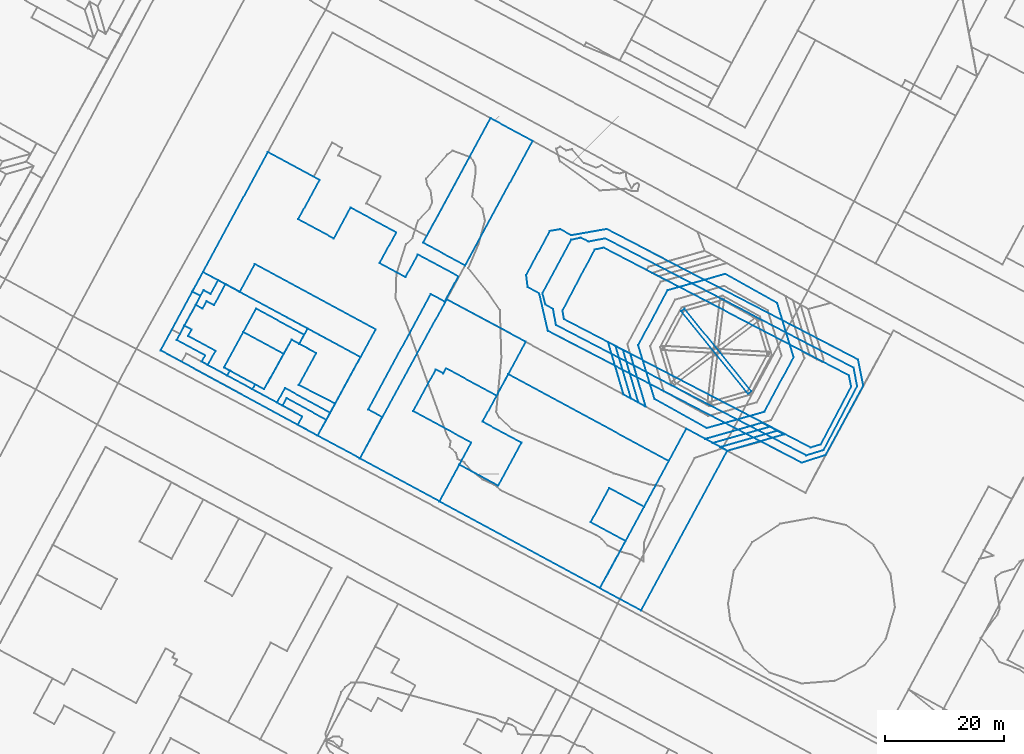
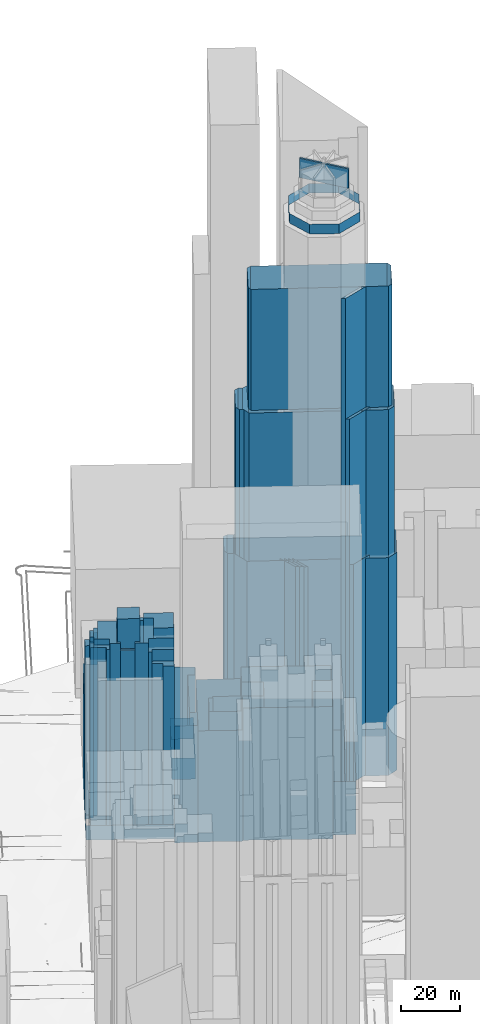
# Not in any storey, part 25 of 80: 28 walls.
"""IFC4 building model written with IfcOpenShell, lengths in metres."""

from ifc_helpers import new_model, si_unit, frame, origin_with_axes, place, context, subcontext, project, spatial, polygons, element, save


model = new_model("IFC4")

# Units and contexts
model_context = context("Model", 3, precision=1e-05, world=origin_with_axes())
body_context = subcontext(model_context, "Body", "Model", "MODEL_VIEW")
ifc_project = project(units=[si_unit("AREAUNIT", "SQUARE_METRE"), si_unit("LENGTHUNIT", "METRE")], contexts=[model_context])

# Sites, building
site_1_placement = place(None, origin_with_axes())
site_1 = spatial("IfcSite", under=ifc_project, at=site_1_placement, Name="Topoexport Site")
site_2_placement = place(site_1_placement, origin_with_axes())
site_2 = spatial("IfcSite", under=site_1, at=site_2_placement, Name="TPX_BATIMENTS")
building_1_placement = place(site_2_placement, frame((159.9721915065, 264.969762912, 19.7613864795), z_axis=(0.0, 0.0, 1.0), x_axis=(1.0, 0.0, 0.0)))
building_1 = spatial("IfcBuilding", under=site_2, at=building_1_placement, Name="Batiment 73", CompositionType="ELEMENT")

# Wall
wall_1_placement = place(None, frame((159.9721915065, 264.969762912, 19.7613864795), z_axis=(0.0, 0.0, 1.0), x_axis=(1.0, 0.0, 0.0)))
element("IfcWall", 1, at=wall_1_placement, inside=building_1, Name="Mur 0", context=body_context, shape_type="Tessellation", body=[
    polygons([(0.0, 0.0, 0.0), (26.8862979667, -14.5533802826, 0.0), (31.1586807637, -6.6544117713, 0.0), (25.3312162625, -3.502510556, 0.0), (28.4385534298, 2.2290739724, 0.0), (34.2660149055, -0.9228247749, 0.0), (38.4143590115, 6.7526611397, 0.0), (11.5365531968, 21.3060973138, 0.0), (7.2227399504, 13.3400447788, 0.0), (13.7552421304, 9.807746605, 0.0), (9.8628457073, 2.6237495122, 0.0), (3.3387795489, 6.1561492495, 0.0), (0.0, 0.0, 54.7000007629), (26.8862979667, -14.5533802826, 54.7000007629), (31.1586807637, -6.6544117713, 54.7000007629), (25.3312162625, -3.502510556, 54.7000007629), (28.4385534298, 2.2290739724, 54.7000007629), (34.2660149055, -0.9228247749, 54.7000007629), (38.4143590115, 6.7526611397, 54.7000007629), (11.5365531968, 21.3060973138, 54.7000007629), (7.2227399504, 13.3400447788, 54.7000007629), (13.7552421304, 9.807746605, 54.7000007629), (9.8628457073, 2.6237495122, 54.7000007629), (3.3387795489, 6.1561492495, 54.7000007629)], [[[14, 13, 2]], [[2, 13, 1]], [[15, 14, 3]], [[3, 14, 2]], [[16, 15, 4]], [[4, 15, 3]], [[17, 16, 5]], [[5, 16, 4]], [[18, 17, 6]], [[6, 17, 5]], [[19, 18, 7]], [[7, 18, 6]], [[20, 19, 8]], [[8, 19, 7]], [[21, 20, 9]], [[9, 20, 8]], [[22, 21, 10]], [[10, 21, 9]], [[23, 22, 11]], [[11, 22, 10]], [[13, 24, 1]], [[1, 24, 12]], [[24, 23, 12]], [[12, 23, 11]]]),
])

# Building
building_2_placement = place(site_2_placement, frame((133.701994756, 280.9958944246, 22.2284312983), z_axis=(0.0, 0.0, 1.0), x_axis=(1.0, 0.0, 0.0)))
building_2 = spatial("IfcBuilding", under=site_2, at=building_2_placement, Name="Batiment 80", CompositionType="ELEMENT")

# Wall
wall_2_placement = place(None, frame((133.701994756, 280.9958944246, 22.2284312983), z_axis=(0.0, 0.0, 1.0), x_axis=(1.0, 0.0, 0.0)))
element("IfcWall", 2, at=wall_2_placement, inside=building_2, Name="Mur 0", context=body_context, shape_type="Tessellation", body=[
    polygons([(0.0, 0.0, 0.0), (3.3046733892, -1.8045757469, 0.0), (2.5274119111, -3.2013890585, 0.0), (5.8745466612, -5.0276748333, 0.0), (7.3210219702, -2.3796322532, 0.0), (0.686095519, 1.2514244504, 0.0), (0.0, 0.0, 70.0), (3.3046733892, -1.8045757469, 70.0), (2.5274119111, -3.2013890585, 70.0), (5.8745466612, -5.0276748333, 70.0), (7.3210219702, -2.3796322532, 70.0), (0.686095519, 1.2514244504, 70.0)], [[[8, 7, 2]], [[2, 7, 1]], [[9, 8, 3]], [[3, 8, 2]], [[10, 9, 4]], [[4, 9, 3]], [[11, 10, 5]], [[5, 10, 4]], [[7, 12, 1]], [[1, 12, 6]], [[12, 11, 6]], [[6, 11, 5]]]),
])

# Building
building_3_placement = place(site_2_placement, frame((132.7675039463, 281.5068423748, 22.0591971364), z_axis=(0.0, 0.0, 1.0), x_axis=(1.0, 0.0, 0.0)))
building_3 = spatial("IfcBuilding", under=site_2, at=building_3_placement, Name="Batiment 81", CompositionType="ELEMENT")

# Wall
wall_3_placement = place(None, frame((132.7675039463, 281.5068423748, 22.0591971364), z_axis=(0.0, 0.0, 1.0), x_axis=(1.0, 0.0, 0.0)))
element("IfcWall", 3, at=wall_3_placement, inside=building_3, Name="Mur 0", context=body_context, shape_type="Tessellation", body=[
    polygons([(0.0, 0.0, 0.0), (0.9344908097, -0.5109479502, 0.0), (1.6205863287, 0.7404765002, 0.0), (8.2555127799, -2.8905802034, 0.0), (8.9001799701, -1.7062499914, 0.0), (1.3392038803, 2.43585198, 0.0), (0.0, 0.0, 75.0), (0.9344908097, -0.5109479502, 75.0), (1.6205863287, 0.7404765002, 75.0), (8.2555127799, -2.8905802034, 75.0), (8.9001799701, -1.7062499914, 75.0), (1.3392038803, 2.43585198, 75.0)], [[[8, 7, 2]], [[2, 7, 1]], [[9, 8, 3]], [[3, 8, 2]], [[10, 9, 4]], [[4, 9, 3]], [[11, 10, 5]], [[5, 10, 4]], [[7, 12, 1]], [[1, 12, 6]], [[12, 11, 6]], [[6, 11, 5]]]),
])

# Building
building_4_placement = place(site_2_placement, frame((136.4219742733, 284.4691979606, 20.8510870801), z_axis=(0.0, 0.0, 1.0), x_axis=(1.0, 0.0, 0.0)))
building_4 = spatial("IfcBuilding", under=site_2, at=building_4_placement, Name="Batiment 82", CompositionType="ELEMENT")

# Wall
wall_4_placement = place(None, frame((136.4219742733, 284.4691979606, 20.8510870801), z_axis=(0.0, 0.0, 1.0), x_axis=(1.0, 0.0, 0.0)))
element("IfcWall", 4, at=wall_4_placement, inside=building_4, Name="Mur 0", context=body_context, shape_type="Tessellation", body=[
    polygons([(0.0, 0.0, 0.0), (6.088815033, -3.1266972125, 0.0), (10.3290123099, 4.6386442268, 0.0), (1.4688163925, 9.4428815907, 0.0), (0.063512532, 6.8841359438, 0.0), (2.9178819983, 5.3296808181, 0.0), (0.0, 0.0, 83.0), (6.088815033, -3.1266972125, 83.0), (10.3290123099, 4.6386442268, 83.0), (1.4688163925, 9.4428815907, 83.0), (0.063512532, 6.8841359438, 83.0), (2.9178819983, 5.3296808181, 83.0)], [[[8, 7, 2]], [[2, 7, 1]], [[9, 8, 3]], [[3, 8, 2]], [[10, 9, 4]], [[4, 9, 3]], [[11, 10, 5]], [[5, 10, 4]], [[7, 12, 1]], [[1, 12, 6]], [[12, 11, 6]], [[6, 11, 5]]]),
])

# Building
building_5_placement = place(site_2_placement, frame((128.6389686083, 283.7459380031, 21.7688219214), z_axis=(0.0, 0.0, 1.0), x_axis=(1.0, 0.0, 0.0)))
building_5 = spatial("IfcBuilding", under=site_2, at=building_5_placement, Name="Batiment 83", CompositionType="ELEMENT")

# Wall
wall_5_placement = place(None, frame((128.6389686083, 283.7459380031, 21.7688219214), z_axis=(0.0, 0.0, 1.0), x_axis=(1.0, 0.0, 0.0)))
element("IfcWall", 5, at=wall_5_placement, inside=building_5, Name="Mur 0", context=body_context, shape_type="Tessellation", body=[
    polygons([(0.0, 0.0, 0.0), (4.128535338, -2.2390956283, 0.0), (5.4677392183, 0.1967563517, 0.0), (13.0287153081, -3.9453456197, 0.0), (13.8718206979, -2.403437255, 0.0), (7.7830056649, 0.7232599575, 0.0), (10.7008876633, 6.0529407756, 0.0), (6.5976755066, 8.2923269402, 0.0), (1.9668380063, 0.0006475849, 0.0), (0.4547989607, 0.8157486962, 0.0), (0.0, 0.0, 79.0), (4.128535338, -2.2390956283, 79.0), (5.4677392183, 0.1967563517, 79.0), (13.0287153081, -3.9453456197, 79.0), (13.8718206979, -2.403437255, 79.0), (7.7830056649, 0.7232599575, 79.0), (10.7008876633, 6.0529407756, 79.0), (6.5976755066, 8.2923269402, 79.0), (1.9668380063, 0.0006475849, 79.0), (0.4547989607, 0.8157486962, 79.0)], [[[12, 11, 2]], [[2, 11, 1]], [[13, 12, 3]], [[3, 12, 2]], [[14, 13, 4]], [[4, 13, 3]], [[15, 14, 5]], [[5, 14, 4]], [[16, 15, 6]], [[6, 15, 5]], [[17, 16, 7]], [[7, 16, 6]], [[18, 17, 8]], [[8, 17, 7]], [[19, 18, 9]], [[9, 18, 8]], [[11, 20, 1]], [[1, 20, 10]], [[20, 19, 10]], [[10, 19, 9]]]),
])

# Building
building_6_placement = place(site_2_placement, frame((127.1263243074, 293.3318134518, 21.914507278), z_axis=(0.0, 0.0, 1.0), x_axis=(1.0, 0.0, 0.0)))
building_6 = spatial("IfcBuilding", under=site_2, at=building_6_placement, Name="Batiment 84", CompositionType="ELEMENT")

# Wall
wall_6_placement = place(None, frame((127.1263243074, 293.3318134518, 21.914507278), z_axis=(0.0, 0.0, 1.0), x_axis=(1.0, 0.0, 0.0)))
element("IfcWall", 6, at=wall_6_placement, inside=building_6, Name="Mur 0", context=body_context, shape_type="Tessellation", body=[
    polygons([(0.0, 0.0, 0.0), (6.7281427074, -3.6632865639, 0.0), (8.1103198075, -1.2935485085, 0.0), (9.3591624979, -1.9784795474, 0.0), (10.1940852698, -0.4588713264, 0.0), (2.1408822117, 3.9106630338, 0.0), (0.0, 0.0, 81.0), (6.7281427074, -3.6632865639, 81.0), (8.1103198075, -1.2935485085, 81.0), (9.3591624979, -1.9784795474, 81.0), (10.1940852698, -0.4588713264, 81.0), (2.1408822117, 3.9106630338, 81.0)], [[[8, 7, 2]], [[2, 7, 1]], [[9, 8, 3]], [[3, 8, 2]], [[10, 9, 4]], [[4, 9, 3]], [[11, 10, 5]], [[5, 10, 4]], [[7, 12, 1]], [[1, 12, 6]], [[12, 11, 6]], [[6, 11, 5]]]),
])

# Building
building_7_placement = place(site_2_placement, frame((113.2505831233, 290.2618220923, 20.8510870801), z_axis=(0.0, 0.0, 1.0), x_axis=(1.0, 0.0, 0.0)))
building_7 = spatial("IfcBuilding", under=site_2, at=building_7_placement, Name="Batiment 85", CompositionType="ELEMENT")

# Wall
wall_7_placement = place(None, frame((113.2505831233, 290.2618220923, 20.8510870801), z_axis=(0.0, 0.0, 1.0), x_axis=(1.0, 0.0, 0.0)))
element("IfcWall", 7, at=wall_7_placement, inside=building_7, Name="Mur 0", context=body_context, shape_type="Tessellation", body=[
    polygons([(0.0, 0.0, 0.0), (26.3259582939, -14.293602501, 0.0), (33.5004034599, -1.1539799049, 0.0), (7.1070834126, 13.1277116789, 0.0), (0.0, 0.0, 6.0), (26.3259582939, -14.293602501, 6.0), (33.5004034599, -1.1539799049, 6.0), (7.1070834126, 13.1277116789, 6.0)], [[[6, 5, 2]], [[2, 5, 1]], [[7, 6, 3]], [[3, 6, 2]], [[5, 8, 1]], [[1, 8, 4]], [[8, 7, 4]], [[4, 7, 3]]]),
])

# Building
building_8_placement = place(site_2_placement, frame((123.8777892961, 287.3987743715, 22.3844927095), z_axis=(0.0, 0.0, 1.0), x_axis=(1.0, 0.0, 0.0)))
building_8 = spatial("IfcBuilding", under=site_2, at=building_8_placement, Name="Batiment 86", CompositionType="ELEMENT")

# Wall
wall_8_placement = place(None, frame((123.8777892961, 287.3987743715, 22.3844927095), z_axis=(0.0, 0.0, 1.0), x_axis=(1.0, 0.0, 0.0)))
element("IfcWall", 8, at=wall_8_placement, inside=building_8, Name="Mur 0", context=body_context, shape_type="Tessellation", body=[
    polygons([(0.0, 0.0, 0.0), (6.7280173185, -3.6521887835, 0.0), (9.9766777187, 2.2697525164, 0.0), (3.2485350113, 5.9330390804, 0.0), (0.0, 0.0, 87.9000015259), (6.7280173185, -3.6521887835, 87.9000015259), (9.9766777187, 2.2697525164, 87.9000015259), (3.2485350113, 5.9330390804, 87.9000015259)], [[[6, 5, 2]], [[2, 5, 1]], [[7, 6, 3]], [[3, 6, 2]], [[5, 8, 1]], [[1, 8, 4]], [[8, 7, 4]], [[4, 7, 3]]]),
])

# Building
building_9_placement = place(site_2_placement, frame((124.4423978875, 286.0286544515, 23.0098590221), z_axis=(0.0, 0.0, 1.0), x_axis=(1.0, 0.0, 0.0)))
building_9 = spatial("IfcBuilding", under=site_2, at=building_9_placement, Name="Batiment 87", CompositionType="ELEMENT")

# Wall
wall_9_placement = place(None, frame((124.4423978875, 286.0286544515, 23.0098590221), z_axis=(0.0, 0.0, 1.0), x_axis=(1.0, 0.0, 0.0)))
element("IfcWall", 9, at=wall_9_placement, inside=building_9, Name="Mur 0", context=body_context, shape_type="Tessellation", body=[
    polygons([(0.0, 0.0, 0.0), (4.1965707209, -2.2827164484, 0.0), (4.6513696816, -1.4669677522, 0.0), (0.4463590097, 0.8156503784, 0.0), (0.0, 0.0, 75.0), (4.1965707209, -2.2827164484, 75.0), (4.6513696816, -1.4669677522, 75.0), (0.4463590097, 0.8156503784, 75.0)], [[[6, 5, 2]], [[2, 5, 1]], [[7, 6, 3]], [[3, 6, 2]], [[5, 8, 1]], [[1, 8, 4]], [[8, 7, 4]], [[4, 7, 3]]]),
])

# Building
building_10_placement = place(site_2_placement, frame((115.9822453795, 292.0033020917, 23.3452877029), z_axis=(0.0, 0.0, 1.0), x_axis=(1.0, 0.0, 0.0)))
building_10 = spatial("IfcBuilding", under=site_2, at=building_10_placement, Name="Batiment 90", CompositionType="ELEMENT")

# Wall
wall_10_placement = place(None, frame((115.9822453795, 292.0033020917, 23.3452877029), z_axis=(0.0, 0.0, 1.0), x_axis=(1.0, 0.0, 0.0)))
element("IfcWall", 10, at=wall_10_placement, inside=building_10, Name="Mur 0", context=body_context, shape_type="Tessellation", body=[
    polygons([(0.0, 0.0, 0.0), (4.7571032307, -2.5759699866, 0.0), (4.1786660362, -3.648506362, 0.0), (5.1896332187, -4.2029764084, 0.0), (6.4789719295, -1.8343194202, 0.0), (1.8832649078, 0.6547063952, 0.0), (2.4784536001, 1.7385394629, 0.0), (1.2720721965, 2.4017622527, 0.0), (0.0, 0.0, 75.0), (4.7571032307, -2.5759699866, 75.0), (4.1786660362, -3.648506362, 75.0), (5.1896332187, -4.2029764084, 75.0), (6.4789719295, -1.8343194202, 75.0), (1.8832649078, 0.6547063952, 75.0), (2.4784536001, 1.7385394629, 75.0), (1.2720721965, 2.4017622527, 75.0)], [[[10, 9, 2]], [[2, 9, 1]], [[11, 10, 3]], [[3, 10, 2]], [[12, 11, 4]], [[4, 11, 3]], [[13, 12, 5]], [[5, 12, 4]], [[14, 13, 6]], [[6, 13, 5]], [[15, 14, 7]], [[7, 14, 6]], [[9, 16, 1]], [[1, 16, 8]], [[16, 15, 8]], [[8, 15, 7]]]),
])

# Building
building_11_placement = place(site_2_placement, frame((117.2543175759, 294.4050643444, 21.8182038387), z_axis=(0.0, 0.0, 1.0), x_axis=(1.0, 0.0, 0.0)))
building_11 = spatial("IfcBuilding", under=site_2, at=building_11_placement, Name="Batiment 92", CompositionType="ELEMENT")

# Wall
wall_11_placement = place(None, frame((117.2543175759, 294.4050643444, 21.8182038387), z_axis=(0.0, 0.0, 1.0), x_axis=(1.0, 0.0, 0.0)))
element("IfcWall", 11, at=wall_11_placement, inside=building_11, Name="Mur 0", context=body_context, shape_type="Tessellation", body=[
    polygons([(0.0, 0.0, 0.0), (1.2063814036, -0.6632227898, 0.0), (0.6111927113, -1.7470558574, 0.0), (5.206899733, -4.2360816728, 0.0), (3.9175610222, -6.6047386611, 0.0), (7.1880803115, -8.3764098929, 0.0), (7.6344393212, -7.5607595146, 0.0), (6.6234717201, -7.0062899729, 0.0), (12.0128889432, 2.8374121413, 0.0), (20.0660920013, -1.532122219, 0.0), (20.6364730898, -0.4929847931, 0.0), (6.8834997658, 6.9411625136, 0.0), (4.9492373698, 3.4103780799, 0.0), (3.7259757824, 4.073404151, 0.0), (3.0481909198, 2.8331797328, 0.0), (1.8928382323, 3.4636882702, 0.0), (0.0, 0.0, 79.0), (1.2063814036, -0.6632227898, 79.0), (0.6111927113, -1.7470558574, 79.0), (5.206899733, -4.2360816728, 79.0), (3.9175610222, -6.6047386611, 79.0), (7.1880803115, -8.3764098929, 79.0), (7.6344393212, -7.5607595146, 79.0), (6.6234717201, -7.0062899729, 79.0), (12.0128889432, 2.8374121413, 79.0), (20.0660920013, -1.532122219, 79.0), (20.6364730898, -0.4929847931, 79.0), (6.8834997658, 6.9411625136, 79.0), (4.9492373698, 3.4103780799, 79.0), (3.7259757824, 4.073404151, 79.0), (3.0481909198, 2.8331797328, 79.0), (1.8928382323, 3.4636882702, 79.0)], [[[18, 17, 2]], [[2, 17, 1]], [[19, 18, 3]], [[3, 18, 2]], [[20, 19, 4]], [[4, 19, 3]], [[21, 20, 5]], [[5, 20, 4]], [[22, 21, 6]], [[6, 21, 5]], [[23, 22, 7]], [[7, 22, 6]], [[24, 23, 8]], [[8, 23, 7]], [[25, 24, 9]], [[9, 24, 8]], [[26, 25, 10]], [[10, 25, 9]], [[27, 26, 11]], [[11, 26, 10]], [[28, 27, 12]], [[12, 27, 11]], [[29, 28, 13]], [[13, 28, 12]], [[30, 29, 14]], [[14, 29, 13]], [[31, 30, 15]], [[15, 30, 14]], [[17, 32, 1]], [[1, 32, 16]], [[32, 31, 16]], [[16, 31, 15]]]),
])

# Building
building_12_placement = place(site_2_placement, frame((120.3576665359, 303.3895337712, 19.1918452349), z_axis=(0.0, 0.0, 1.0), x_axis=(1.0, 0.0, 0.0)))
building_12 = spatial("IfcBuilding", under=site_2, at=building_12_placement, Name="Batiment 93", CompositionType="ELEMENT")

# Wall
wall_12_placement = place(None, frame((120.3576665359, 303.3895337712, 19.1918452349), z_axis=(0.0, 0.0, 1.0), x_axis=(1.0, 0.0, 0.0)))
element("IfcWall", 12, at=wall_12_placement, inside=building_12, Name="Mur 0", context=body_context, shape_type="Tessellation", body=[
    polygons([(0.0, 0.0, 0.0), (6.1586360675, -3.3257392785, 0.0), (8.6958773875, 1.3444821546, 0.0), (28.9305528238, -9.6114631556, 0.0), (19.2188748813, -27.4213141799, 0.0), (26.294638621, -31.2137773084, 0.0), (30.029914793, -24.3091752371, 0.0), (27.6853086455, -23.0374588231, 0.0), (38.1557868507, -3.6977675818, 0.0), (40.5002598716, -4.9583798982, 0.0), (42.7894344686, -0.7351197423, 0.0), (36.0020774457, 2.9385544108, 0.0), (33.927701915, -0.8825259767, 0.0), (29.5868752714, 1.4651129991, 0.0), (32.3883820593, 6.6380157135, 0.0), (24.7261469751, 10.7789291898, 0.0), (21.9330768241, 5.6061274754, 0.0), (15.9697266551, 8.8342025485, 0.0), (19.5314868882, 15.4148184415, 0.0), (10.8837545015, 20.0994069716, 0.0), (0.0, 0.0, 48.2999992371), (6.1586360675, -3.3257392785, 48.2999992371), (8.6958773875, 1.3444821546, 48.2999992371), (28.9305528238, -9.6114631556, 48.2999992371), (19.2188748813, -27.4213141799, 48.2999992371), (26.294638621, -31.2137773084, 48.2999992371), (30.029914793, -24.3091752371, 48.2999992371), (27.6853086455, -23.0374588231, 48.2999992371), (38.1557868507, -3.6977675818, 48.2999992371), (40.5002598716, -4.9583798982, 48.2999992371), (42.7894344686, -0.7351197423, 48.2999992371), (36.0020774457, 2.9385544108, 48.2999992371), (33.927701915, -0.8825259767, 48.2999992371), (29.5868752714, 1.4651129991, 48.2999992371), (32.3883820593, 6.6380157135, 48.2999992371), (24.7261469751, 10.7789291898, 48.2999992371), (21.9330768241, 5.6061274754, 48.2999992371), (15.9697266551, 8.8342025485, 48.2999992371), (19.5314868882, 15.4148184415, 48.2999992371), (10.8837545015, 20.0994069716, 48.2999992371)], [[[22, 21, 2]], [[2, 21, 1]], [[23, 22, 3]], [[3, 22, 2]], [[24, 23, 4]], [[4, 23, 3]], [[25, 24, 5]], [[5, 24, 4]], [[26, 25, 6]], [[6, 25, 5]], [[27, 26, 7]], [[7, 26, 6]], [[28, 27, 8]], [[8, 27, 7]], [[29, 28, 9]], [[9, 28, 8]], [[30, 29, 10]], [[10, 29, 9]], [[31, 30, 11]], [[11, 30, 10]], [[32, 31, 12]], [[12, 31, 11]], [[33, 32, 13]], [[13, 32, 12]], [[34, 33, 14]], [[14, 33, 13]], [[35, 34, 15]], [[15, 34, 14]], [[36, 35, 16]], [[16, 35, 15]], [[37, 36, 17]], [[17, 36, 16]], [[38, 37, 18]], [[18, 37, 17]], [[39, 38, 19]], [[19, 38, 18]], [[21, 40, 1]], [[1, 40, 20]], [[40, 39, 20]], [[20, 39, 19]]]),
])

# Building
building_13_placement = place(site_2_placement, frame((146.6523051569, 272.1757564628, 19.3891240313), z_axis=(0.0, 0.0, 1.0), x_axis=(1.0, 0.0, 0.0)))
building_13 = spatial("IfcBuilding", under=site_2, at=building_13_placement, Name="Batiment 94", CompositionType="ELEMENT")

# Wall
wall_13_placement = place(None, frame((146.6523051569, 272.1757564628, 19.3891240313), z_axis=(0.0, 0.0, 1.0), x_axis=(1.0, 0.0, 0.0)))
element("IfcWall", 13, at=wall_13_placement, inside=building_13, Name="Mur 0", context=body_context, shape_type="Tessellation", body=[
    polygons([(0.0, 0.0, 0.0), (13.3198863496, -7.2059935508, 0.0), (18.6586321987, 2.6371463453, 0.0), (8.931952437, 7.9086886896, 0.0), (12.7252657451, 14.9027882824, 0.0), (13.982422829, 14.2290601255, 0.0), (14.4368310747, 15.0781131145, 0.0), (22.9062179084, 10.4914052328, 0.0), (27.7984552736, 19.5299999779, 0.0), (14.5389731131, 26.6256464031, 0.0), (0.0, 0.0, 45.9000015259), (13.3198863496, -7.2059935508, 45.9000015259), (18.6586321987, 2.6371463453, 45.9000015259), (8.931952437, 7.9086886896, 45.9000015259), (12.7252657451, 14.9027882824, 45.9000015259), (13.982422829, 14.2290601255, 45.9000015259), (14.4368310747, 15.0781131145, 45.9000015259), (22.9062179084, 10.4914052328, 45.9000015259), (27.7984552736, 19.5299999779, 45.9000015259), (14.5389731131, 26.6256464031, 45.9000015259)], [[[12, 11, 2]], [[2, 11, 1]], [[13, 12, 3]], [[3, 12, 2]], [[14, 13, 4]], [[4, 13, 3]], [[15, 14, 5]], [[5, 14, 4]], [[16, 15, 6]], [[6, 15, 5]], [[17, 16, 7]], [[7, 16, 6]], [[18, 17, 8]], [[8, 17, 7]], [[19, 18, 9]], [[9, 18, 8]], [[11, 20, 1]], [[1, 20, 10]], [[20, 19, 10]], [[10, 19, 9]]]),
])

# Building
building_14_placement = place(site_2_placement, frame((190.7505875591, 290.2965312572, 21.0925550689), z_axis=(0.0, 0.0, 1.0), x_axis=(1.0, 0.0, 0.0)))
building_14 = spatial("IfcBuilding", under=site_2, at=building_14_placement, Name="Batiment 95", CompositionType="ELEMENT")

# Wall
wall_14_placement = place(None, frame((190.7505875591, 290.2965312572, 21.0925550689), z_axis=(0.0, 0.0, 1.0), x_axis=(1.0, 0.0, 0.0)))
element("IfcWall", 14, at=wall_14_placement, inside=building_14, Name="Mur 0", context=body_context, shape_type="Tessellation", body=[
    polygons([(0.0, 0.0, 0.0), (2.5927444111, -8.8183526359, 0.0), (3.7905656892, -9.4705605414, 0.0), (1.2400209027, -0.6517176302, 0.0), (0.0, 0.0, 90.0), (2.5927444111, -8.8183526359, 90.0), (3.7905656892, -9.4705605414, 90.0), (1.2400209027, -0.6517176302, 90.0)], [[[6, 5, 2]], [[2, 5, 1]], [[7, 6, 3]], [[3, 6, 2]], [[5, 8, 1]], [[1, 8, 4]], [[8, 7, 4]], [[4, 7, 3]]]),
])

# Building
building_15_placement = place(site_2_placement, frame((189.5021266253, 290.948150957, 21.1265616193), z_axis=(0.0, 0.0, 1.0), x_axis=(1.0, 0.0, 0.0)))
building_15 = spatial("IfcBuilding", under=site_2, at=building_15_placement, Name="Batiment 96", CompositionType="ELEMENT")

# Wall
wall_15_placement = place(None, frame((189.5021266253, 290.948150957, 21.1265616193), z_axis=(0.0, 0.0, 1.0), x_axis=(1.0, 0.0, 0.0)))
element("IfcWall", 15, at=wall_15_placement, inside=building_15, Name="Mur 0", context=body_context, shape_type="Tessellation", body=[
    polygons([(0.0, 0.0, 0.0), (2.5839152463, -8.7851489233, 0.0), (3.8412053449, -9.4699723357, 0.0), (1.2484609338, -0.6516196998, 0.0), (0.0, 0.0, 90.0), (2.5839152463, -8.7851489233, 90.0), (3.8412053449, -9.4699723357, 90.0), (1.2484609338, -0.6516196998, 90.0)], [[[6, 5, 2]], [[2, 5, 1]], [[7, 6, 3]], [[3, 6, 2]], [[5, 8, 1]], [[1, 8, 4]], [[8, 7, 4]], [[4, 7, 3]]]),
])

# Building
building_16_placement = place(site_2_placement, frame((188.2449675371, 291.6218742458, 21.1651408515), z_axis=(0.0, 0.0, 1.0), x_axis=(1.0, 0.0, 0.0)))
building_16 = spatial("IfcBuilding", under=site_2, at=building_16_placement, Name="Batiment 97", CompositionType="ELEMENT")

# Wall
wall_16_placement = place(None, frame((188.2449675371, 291.6218742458, 21.1651408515), z_axis=(0.0, 0.0, 1.0), x_axis=(1.0, 0.0, 0.0)))
element("IfcWall", 16, at=wall_16_placement, inside=building_16, Name="Mur 0", context=body_context, shape_type="Tessellation", body=[
    polygons([(0.0, 0.0, 0.0), (2.5839135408, -8.7851493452, 0.0), (3.8410743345, -9.4588722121, 0.0), (1.2571590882, -0.6737232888, 0.0), (0.0, 0.0, 90.0), (2.5839135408, -8.7851493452, 90.0), (3.8410743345, -9.4588722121, 90.0), (1.2571590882, -0.6737232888, 90.0)], [[[6, 5, 2]], [[2, 5, 1]], [[7, 6, 3]], [[3, 6, 2]], [[5, 8, 1]], [[1, 8, 4]], [[8, 7, 4]], [[4, 7, 3]]]),
])

# Building
building_17_placement = place(site_2_placement, frame((204.4971683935, 275.4350208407, 21.6849039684), z_axis=(0.0, 0.0, 1.0), x_axis=(1.0, 0.0, 0.0)))
building_17 = spatial("IfcBuilding", under=site_2, at=building_17_placement, Name="Batiment 104", CompositionType="ELEMENT")

# Wall
wall_17_placement = place(None, frame((204.4971683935, 275.4350208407, 21.6849039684), z_axis=(0.0, 0.0, 1.0), x_axis=(1.0, 0.0, 0.0)))
element("IfcWall", 17, at=wall_17_placement, inside=building_17, Name="Mur 0", context=body_context, shape_type="Tessellation", body=[
    polygons([(0.0, 0.0, 0.0), (1.2741729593, -0.6846250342, 0.0), (10.7814669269, 2.0238691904, 0.0), (9.490542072, 2.6971955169, 0.0), (0.0, 0.0, 200.0), (1.2741729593, -0.6846250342, 200.0), (10.7814669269, 2.0238691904, 200.0), (9.490542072, 2.6971955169, 200.0)], [[[6, 5, 2]], [[2, 5, 1]], [[7, 6, 3]], [[3, 6, 2]], [[5, 8, 1]], [[1, 8, 4]], [[8, 7, 4]], [[4, 7, 3]]]),
])

# Building
building_18_placement = place(site_2_placement, frame((205.7713413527, 274.7503958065, 21.7965636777), z_axis=(0.0, 0.0, 1.0), x_axis=(1.0, 0.0, 0.0)))
building_18 = spatial("IfcBuilding", under=site_2, at=building_18_placement, Name="Batiment 105", CompositionType="ELEMENT")

# Wall
wall_18_placement = place(None, frame((205.7713413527, 274.7503958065, 21.7965636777), z_axis=(0.0, 0.0, 1.0), x_axis=(1.0, 0.0, 0.0)))
element("IfcWall", 18, at=wall_18_placement, inside=building_18, Name="Mur 0", context=body_context, shape_type="Tessellation", body=[
    polygons([(0.0, 0.0, 0.0), (1.2572926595, -0.6848211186, 0.0), (10.7897787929, 2.0350699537, 0.0), (9.5072939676, 2.7084942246, 0.0), (0.0, 0.0, 150.0), (1.2572926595, -0.6848211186, 150.0), (10.7897787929, 2.0350699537, 150.0), (9.5072939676, 2.7084942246, 150.0)], [[[6, 5, 2]], [[2, 5, 1]], [[7, 6, 3]], [[3, 6, 2]], [[5, 8, 1]], [[1, 8, 4]], [[8, 7, 4]], [[4, 7, 3]]]),
])

# Building
building_19_placement = place(site_2_placement, frame((207.0286340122, 274.0655746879, 21.8143831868), z_axis=(0.0, 0.0, 1.0), x_axis=(1.0, 0.0, 0.0)))
building_19 = spatial("IfcBuilding", under=site_2, at=building_19_placement, Name="Batiment 106", CompositionType="ELEMENT")

# Wall
wall_19_placement = place(None, frame((207.0286340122, 274.0655746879, 21.8143831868), z_axis=(0.0, 0.0, 1.0), x_axis=(1.0, 0.0, 0.0)))
element("IfcWall", 19, at=wall_19_placement, inside=building_19, Name="Mur 0", context=body_context, shape_type="Tessellation", body=[
    polygons([(0.0, 0.0, 0.0), (1.1722447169, -0.630298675, 0.0), (10.6620135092, 2.1335061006, 0.0), (9.5324861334, 2.7198910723, 0.0), (0.0, 0.0, 90.0), (1.1722447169, -0.630298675, 90.0), (10.6620135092, 2.1335061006, 90.0), (9.5324861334, 2.7198910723, 90.0)], [[[6, 5, 2]], [[2, 5, 1]], [[7, 6, 3]], [[3, 6, 2]], [[5, 8, 1]], [[1, 8, 4]], [[8, 7, 4]], [[4, 7, 3]]]),
])

# Building
building_20_placement = place(site_2_placement, frame((193.2816809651, 291.1364254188, 247.2874462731), z_axis=(0.0, 0.0, 1.0), x_axis=(1.0, 0.0, 0.0)))
building_20 = spatial("IfcBuilding", under=site_2, at=building_20_placement, Name="Batiment 108", CompositionType="ELEMENT")

# Wall
wall_20_placement = place(None, frame((193.2816809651, 291.1364254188, 247.2874462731), z_axis=(0.0, 0.0, 1.0), x_axis=(1.0, 0.0, 0.0)))
element("IfcWall", 20, at=wall_20_placement, inside=building_20, Name="Mur 0", context=body_context, shape_type="Tessellation", body=[
    polygons([(0.0, 0.0, 0.0), (2.7471243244, -9.0274996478, 0.0), (11.4476540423, -13.8890368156, 0.0), (21.1319324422, -11.1562809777, 0.0), (26.0391907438, -1.9620488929, 0.0), (23.2920400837, 7.0654426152, 0.0), (14.5913971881, 11.9380665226, 0.0), (4.9071471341, 9.2053187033, 0.0), (0.0, 0.0, 4.0), (2.7471243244, -9.0274996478, 4.0), (11.4476540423, -13.8890368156, 4.0), (21.1319324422, -11.1562809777, 4.0), (26.0391907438, -1.9620488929, 4.0), (23.2920400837, 7.0654426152, 4.0), (14.5913971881, 11.9380665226, 4.0), (4.9071471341, 9.2053187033, 4.0)], [[[10, 9, 2]], [[2, 9, 1]], [[11, 10, 3]], [[3, 10, 2]], [[12, 11, 4]], [[4, 11, 3]], [[13, 12, 5]], [[5, 12, 4]], [[14, 13, 6]], [[6, 13, 5]], [[15, 14, 7]], [[7, 14, 6]], [[9, 16, 1]], [[1, 16, 8]], [[16, 15, 8]], [[8, 15, 7]]]),
])

# Building
building_21_placement = place(site_2_placement, frame((200.4835497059, 296.8268073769, 260.0739856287), z_axis=(0.0, 0.0, 1.0), x_axis=(1.0, 0.0, 0.0)))
building_21 = spatial("IfcBuilding", under=site_2, at=building_21_placement, Name="Batiment 109", CompositionType="ELEMENT")

# Wall
wall_21_placement = place(None, frame((200.4835497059, 296.8268073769, 260.0739856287), z_axis=(0.0, 0.0, 1.0), x_axis=(1.0, 0.0, 0.0)))
element("IfcWall", 21, at=wall_21_placement, inside=building_21, Name="Mur 0", context=body_context, shape_type="Tessellation", body=[
    polygons([(0.0, 0.0, 0.0), (11.1849786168, -13.8032627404, 0.0), (11.7370008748, -13.3638547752, 0.0), (0.5434525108, 0.450409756, 0.0), (0.0, 0.0, 8.0), (11.1849786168, -13.8032627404, 8.0), (11.7370008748, -13.3638547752, 8.0), (0.5434525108, 0.450409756, 8.0)], [[[6, 5, 2]], [[2, 5, 1]], [[7, 6, 3]], [[3, 6, 2]], [[5, 8, 1]], [[1, 8, 4]], [[8, 7, 4]], [[4, 7, 3]]]),
])

# Building
building_22_placement = place(site_2_placement, frame((174.515196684, 302.8642732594, 21.3701181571), z_axis=(0.0, 0.0, 1.0), x_axis=(1.0, 0.0, 0.0)))
building_22 = spatial("IfcBuilding", under=site_2, at=building_22_placement, Name="Batiment 118", CompositionType="ELEMENT")

# Wall
wall_22_placement = place(None, frame((174.515196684, 302.8642732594, 21.3701181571), z_axis=(0.0, 0.0, 1.0), x_axis=(1.0, 0.0, 0.0)))
element("IfcWall", 22, at=wall_22_placement, inside=building_22, Name="Mur 0", context=body_context, shape_type="Tessellation", body=[
    polygons([(0.0, 0.0, 0.0), (0.2596837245, -2.0064896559, 0.0), (2.2055322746, -3.1051971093, 0.0), (3.6457642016, -9.3612290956, 0.0), (46.1429906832, -31.4157509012, 0.0), (50.1375301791, -30.1147343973, 0.0), (56.4684852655, -18.4947444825, 0.0), (55.6076025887, -14.152673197, 0.0), (13.4416773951, 7.7280088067, 0.0), (7.5533148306, 6.6825504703, 0.0), (5.6591417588, 7.693039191, 0.0), (3.9490017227, 7.3956015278, 0.0), (0.0, 0.0, 90.0), (0.2596837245, -2.0064896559, 90.0), (2.2055322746, -3.1051971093, 90.0), (3.6457642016, -9.3612290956, 90.0), (46.1429906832, -31.4157509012, 90.0), (50.1375301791, -30.1147343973, 90.0), (56.4684852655, -18.4947444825, 90.0), (55.6076025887, -14.152673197, 90.0), (13.4416773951, 7.7280088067, 90.0), (7.5533148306, 6.6825504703, 90.0), (5.6591417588, 7.693039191, 90.0), (3.9490017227, 7.3956015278, 90.0)], [[[14, 13, 2]], [[2, 13, 1]], [[15, 14, 3]], [[3, 14, 2]], [[16, 15, 4]], [[4, 15, 3]], [[17, 16, 5]], [[5, 16, 4]], [[18, 17, 6]], [[6, 17, 5]], [[19, 18, 7]], [[7, 18, 6]], [[20, 19, 8]], [[8, 19, 7]], [[21, 20, 9]], [[9, 20, 8]], [[22, 21, 10]], [[10, 21, 9]], [[23, 22, 11]], [[11, 22, 10]], [[13, 24, 1]], [[1, 24, 12]], [[24, 23, 12]], [[12, 23, 11]]]),
])

# Building
building_23_placement = place(site_2_placement, frame((177.2431205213, 299.8428648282, 43.5388270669), z_axis=(0.0, 0.0, 1.0), x_axis=(1.0, 0.0, 0.0)))
building_23 = spatial("IfcBuilding", under=site_2, at=building_23_placement, Name="Batiment 119", CompositionType="ELEMENT")

# Wall
wall_23_placement = place(None, frame((177.2431205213, 299.8428648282, 43.5388270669), z_axis=(0.0, 0.0, 1.0), x_axis=(1.0, 0.0, 0.0)))
element("IfcWall", 23, at=wall_23_placement, inside=building_23, Name="Mur 0", context=body_context, shape_type="Tessellation", body=[
    polygons([(0.0, 0.0, 0.0), (0.5291270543, -1.9478459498, 0.0), (1.7866712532, -2.6548732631, 0.0), (2.2654927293, -5.358257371, 0.0), (44.1689292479, -27.1643259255, 0.0), (47.0793212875, -26.2756005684, 0.0), (52.7120119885, -15.5852207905, 0.0), (52.1358092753, -12.4943931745, 0.0), (10.4871850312, 9.1813647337, 0.0), (7.7499180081, 8.6499384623, 0.0), (6.3919957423, 9.2780819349, 0.0), (4.8257265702, 8.9490093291, 0.0), (0.0, 0.0, 128.0), (0.5291270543, -1.9478459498, 128.0), (1.7866712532, -2.6548732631, 128.0), (2.2654927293, -5.358257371, 128.0), (44.1689292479, -27.1643259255, 128.0), (47.0793212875, -26.2756005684, 128.0), (52.7120119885, -15.5852207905, 128.0), (52.1358092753, -12.4943931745, 128.0), (10.4871850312, 9.1813647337, 128.0), (7.7499180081, 8.6499384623, 128.0), (6.3919957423, 9.2780819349, 128.0), (4.8257265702, 8.9490093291, 128.0)], [[[14, 13, 2]], [[2, 13, 1]], [[15, 14, 3]], [[3, 14, 2]], [[16, 15, 4]], [[4, 15, 3]], [[17, 16, 5]], [[5, 16, 4]], [[18, 17, 6]], [[6, 17, 5]], [[19, 18, 7]], [[7, 18, 6]], [[20, 19, 8]], [[8, 19, 7]], [[21, 20, 9]], [[9, 20, 8]], [[22, 21, 10]], [[10, 21, 9]], [[23, 22, 11]], [[11, 22, 10]], [[13, 24, 1]], [[1, 24, 12]], [[24, 23, 12]], [[12, 23, 11]]]),
])

# Building
building_24_placement = place(site_2_placement, frame((180.6026452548, 296.9509249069, 171.5778831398), z_axis=(0.0, 0.0, 1.0), x_axis=(1.0, 0.0, 0.0)))
building_24 = spatial("IfcBuilding", under=site_2, at=building_24_placement, Name="Batiment 120", CompositionType="ELEMENT")

# Wall
wall_24_placement = place(None, frame((180.6026452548, 296.9509249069, 171.5778831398), z_axis=(0.0, 0.0, 1.0), x_axis=(1.0, 0.0, 0.0)))
element("IfcWall", 24, at=wall_24_placement, inside=building_24, Name="Mur 0", context=body_context, shape_type="Tessellation", body=[
    polygons([(0.0, 0.0, 0.0), (0.2620602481, -1.4846557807, 0.0), (41.5201615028, -22.9651549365, 0.0), (43.2446066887, -22.4454958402, 0.0), (48.3487420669, -12.7604679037, 0.0), (47.9978790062, -10.8993697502, 0.0), (6.8926514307, 10.5051540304, 0.0), (5.3850764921, 10.2100697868, 0.0), (0.0, 0.0, 50.0), (0.2620602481, -1.4846557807, 50.0), (41.5201615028, -22.9651549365, 50.0), (43.2446066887, -22.4454958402, 50.0), (48.3487420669, -12.7604679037, 50.0), (47.9978790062, -10.8993697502, 50.0), (6.8926514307, 10.5051540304, 50.0), (5.3850764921, 10.2100697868, 50.0)], [[[10, 9, 2]], [[2, 9, 1]], [[11, 10, 3]], [[3, 10, 2]], [[12, 11, 4]], [[4, 11, 3]], [[13, 12, 5]], [[5, 12, 4]], [[14, 13, 6]], [[6, 13, 5]], [[15, 14, 7]], [[7, 14, 6]], [[9, 16, 1]], [[1, 16, 8]], [[16, 15, 8]], [[8, 15, 7]]]),
])

# Building
building_25_placement = place(site_2_placement, frame((186.8584894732, 250.4163826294, 21.3845065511), z_axis=(0.0, 0.0, 1.0), x_axis=(1.0, 0.0, 0.0)))
building_25 = spatial("IfcBuilding", under=site_2, at=building_25_placement, Name="Batiment 121", CompositionType="ELEMENT")

# Wall
wall_25_placement = place(None, frame((186.8584894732, 250.4163826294, 21.3845065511), z_axis=(0.0, 0.0, 1.0), x_axis=(1.0, 0.0, 0.0)))
element("IfcWall", 25, at=wall_25_placement, inside=building_25, Name="Mur 0", context=body_context, shape_type="Tessellation", body=[
    polygons([(0.0, 0.0, 0.0), (6.8724714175, -3.7281693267, 0.0), (21.3423892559, 23.0188933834, 0.0), (14.4700635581, 26.7359484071, 0.0), (0.0, 0.0, 22.0), (6.8724714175, -3.7281693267, 22.0), (21.3423892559, 23.0188933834, 22.0), (14.4700635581, 26.7359484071, 22.0)], [[[6, 5, 2]], [[2, 5, 1]], [[7, 6, 3]], [[3, 6, 2]], [[5, 8, 1]], [[1, 8, 4]], [[8, 7, 4]], [[4, 7, 3]]]),
])

# Building
building_26_placement = place(site_2_placement, frame((157.2485817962, 308.2924157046, 19.5637782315), z_axis=(0.0, 0.0, 1.0), x_axis=(1.0, 0.0, 0.0)))
building_26 = spatial("IfcBuilding", under=site_2, at=building_26_placement, Name="Batiment 260", CompositionType="ELEMENT")

# Wall
wall_26_placement = place(None, frame((157.2485817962, 308.2924157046, 19.5637782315), z_axis=(0.0, 0.0, 1.0), x_axis=(1.0, 0.0, 0.0)))
element("IfcWall", 26, at=wall_26_placement, inside=building_26, Name="Mur 0", context=body_context, shape_type="Tessellation", body=[
    polygons([(0.0, 0.0, 0.0), (7.0337999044, -3.8151381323, 0.0), (18.3222304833, 17.0439945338, 0.0), (11.288572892, 20.8480210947, 0.0), (0.0, 0.0, 8.8000001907), (7.0337999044, -3.8151381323, 8.8000001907), (18.3222304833, 17.0439945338, 8.8000001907), (11.288572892, 20.8480210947, 8.8000001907)], [[[6, 5, 2]], [[2, 5, 1]], [[7, 6, 3]], [[3, 6, 2]], [[5, 8, 1]], [[1, 8, 4]], [[8, 7, 4]], [[4, 7, 3]]]),
])

# Building
building_27_placement = place(site_2_placement, frame((118.5811882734, 300.0826284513, 23.3439021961), z_axis=(0.0, 0.0, 1.0), x_axis=(1.0, 0.0, 0.0)))
building_27 = spatial("IfcBuilding", under=site_2, at=building_27_placement, Name="Batiment 321", CompositionType="ELEMENT")

# Wall
wall_27_placement = place(None, frame((118.5811882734, 300.0826284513, 23.3439021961), z_axis=(0.0, 0.0, 1.0), x_axis=(1.0, 0.0, 0.0)))
element("IfcWall", 27, at=wall_27_placement, inside=building_27, Name="Mur 0", context=body_context, shape_type="Tessellation", body=[
    polygons([(0.0, 0.0, 0.0), (1.3506384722, -0.7281601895, 0.0), (1.8710248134, 0.2548837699, 0.0), (3.0602671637, -0.3863330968, 0.0), (4.3418081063, 1.9267222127, 0.0), (1.7764782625, 3.3069053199, 0.0), (0.0, 0.0, 70.0), (1.3506384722, -0.7281601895, 70.0), (1.8710248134, 0.2548837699, 70.0), (3.0602671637, -0.3863330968, 70.0), (4.3418081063, 1.9267222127, 70.0), (1.7764782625, 3.3069053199, 70.0)], [[[8, 7, 2]], [[2, 7, 1]], [[9, 8, 3]], [[3, 8, 2]], [[10, 9, 4]], [[4, 9, 3]], [[11, 10, 5]], [[5, 10, 4]], [[7, 12, 1]], [[1, 12, 6]], [[12, 11, 6]], [[6, 11, 5]]]),
])

# Building
building_28_placement = place(site_2_placement, frame((119.1471558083, 297.8687526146, 23.2334152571), z_axis=(0.0, 0.0, 1.0), x_axis=(1.0, 0.0, 0.0)))
building_28 = spatial("IfcBuilding", under=site_2, at=building_28_placement, Name="Batiment 322", CompositionType="ELEMENT")

# Wall
wall_28_placement = place(None, frame((119.1471558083, 297.8687526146, 23.2334152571), z_axis=(0.0, 0.0, 1.0), x_axis=(1.0, 0.0, 0.0)))
element("IfcWall", 28, at=wall_28_placement, inside=building_28, Name="Mur 0", context=body_context, shape_type="Tessellation", body=[
    polygons([(0.0, 0.0, 0.0), (1.1553526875, -0.6305085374, 0.0), (1.83313755, 0.6097158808, 0.0), (3.0563991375, -0.0533101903, 0.0), (4.9906615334, 3.4774742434, 0.0), (3.7758405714, 4.1405980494, 0.0), (2.4942996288, 1.8275427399, 0.0), (1.3050572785, 2.4687596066, 0.0), (0.0, 0.0, 73.0), (1.1553526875, -0.6305085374, 73.0), (1.83313755, 0.6097158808, 73.0), (3.0563991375, -0.0533101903, 73.0), (4.9906615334, 3.4774742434, 73.0), (3.7758405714, 4.1405980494, 73.0), (2.4942996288, 1.8275427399, 73.0), (1.3050572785, 2.4687596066, 73.0)], [[[10, 9, 2]], [[2, 9, 1]], [[11, 10, 3]], [[3, 10, 2]], [[12, 11, 4]], [[4, 11, 3]], [[13, 12, 5]], [[5, 12, 4]], [[14, 13, 6]], [[6, 13, 5]], [[15, 14, 7]], [[7, 14, 6]], [[9, 16, 1]], [[1, 16, 8]], [[16, 15, 8]], [[8, 15, 7]]]),
])

save(model, "model.ifc")
